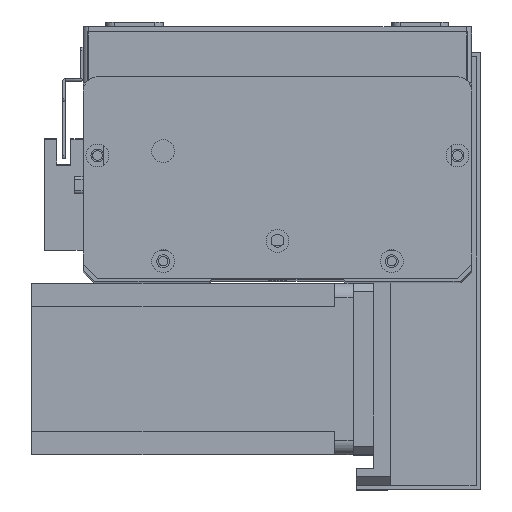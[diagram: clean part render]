
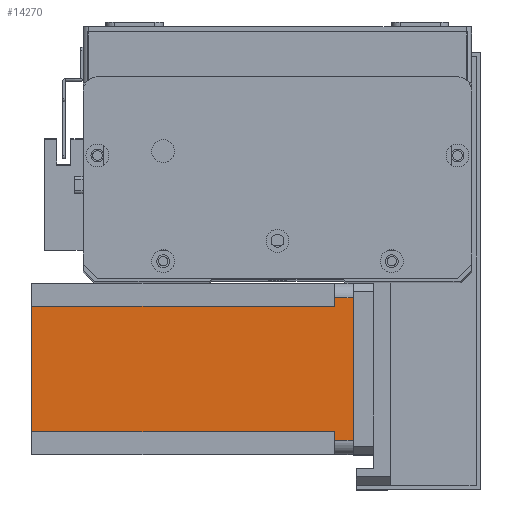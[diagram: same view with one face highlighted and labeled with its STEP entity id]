
A CAD part, top view. The second image highlights one B-rep face of the part: STEP entity #14270.
In plain terms, the highlighted planar face has unit normal (0, 0, 1) as drawn and (0, -1, 0) by its records, which use the part's own axes.
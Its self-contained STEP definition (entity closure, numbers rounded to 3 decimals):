
#109 = ORIENTED_EDGE ( 'NONE', *, *, #27678, .F. ) ;
#430 = CARTESIAN_POINT ( 'NONE',  ( 8., 0., -6.5 ) ) ;
#582 = CARTESIAN_POINT ( 'NONE',  ( 5., 0., 0. ) ) ;
#783 = VECTOR ( 'NONE', #920, 1000. ) ;
#877 = LINE ( 'NONE', #21966, #6172 ) ;
#920 = DIRECTION ( 'NONE',  ( 0., 0., -1. ) ) ;
#1233 = ORIENTED_EDGE ( 'NONE', *, *, #26818, .T. ) ;
#1322 = FACE_OUTER_BOUND ( 'NONE', #5190, .T. ) ;
#1662 = CARTESIAN_POINT ( 'NONE',  ( 52., 0., -112.5 ) ) ;
#1711 = ORIENTED_EDGE ( 'NONE', *, *, #26572, .T. ) ;
#1866 = LINE ( 'NONE', #3988, #24560 ) ;
#2919 = DIRECTION ( 'NONE',  ( 1., 0., 0. ) ) ;
#3390 = VERTEX_POINT ( 'NONE', #1662 ) ;
#3449 = ORIENTED_EDGE ( 'NONE', *, *, #27839, .F. ) ;
#3486 = DIRECTION ( 'NONE',  ( 1., 0., 0. ) ) ;
#3983 = CARTESIAN_POINT ( 'NONE',  ( 55., 0., 0. ) ) ;
#3988 = CARTESIAN_POINT ( 'NONE',  ( 0., 0., -112.5 ) ) ;
#4340 = LINE ( 'NONE', #11675, #21931 ) ;
#5190 = EDGE_LOOP ( 'NONE', ( #1711, #1233, #21809, #9369, #109, #3449, #11434, #16267 ) ) ;
#6172 = VECTOR ( 'NONE', #24083, 1000. ) ;
#7248 = DIRECTION ( 'NONE',  ( -1., 0., 0. ) ) ;
#8338 = CARTESIAN_POINT ( 'NONE',  ( 52., 0., -6.5 ) ) ;
#8752 = VERTEX_POINT ( 'NONE', #582 ) ;
#9369 = ORIENTED_EDGE ( 'NONE', *, *, #27476, .T. ) ;
#9456 = DIRECTION ( 'NONE',  ( 0., 0., -1. ) ) ;
#9572 = DIRECTION ( 'NONE',  ( 0., -1., 0. ) ) ;
#9765 = CARTESIAN_POINT ( 'NONE',  ( 0., 0., -112.5 ) ) ;
#9850 = PLANE ( 'NONE',  #19506 ) ;
#10379 = VERTEX_POINT ( 'NONE', #16748 ) ;
#10889 = VECTOR ( 'NONE', #2919, 1000. ) ;
#11434 = ORIENTED_EDGE ( 'NONE', *, *, #28006, .T. ) ;
#11484 = VERTEX_POINT ( 'NONE', #430 ) ;
#11675 = CARTESIAN_POINT ( 'NONE',  ( 8., 0., -6.5 ) ) ;
#12007 = VECTOR ( 'NONE', #16576, 1000. ) ;
#12429 = LINE ( 'NONE', #21120, #18194 ) ;
#13147 = CARTESIAN_POINT ( 'NONE',  ( 55., 0., -6.5 ) ) ;
#13300 = DIRECTION ( 'NONE',  ( 0., 0., -1. ) ) ;
#14070 = CARTESIAN_POINT ( 'NONE',  ( 0., 0., 0. ) ) ;
#14270 = ADVANCED_FACE ( 'NONE', ( #1322 ), #9850, .T. ) ;
#16258 = VERTEX_POINT ( 'NONE', #13147 ) ;
#16267 = ORIENTED_EDGE ( 'NONE', *, *, #28331, .F. ) ;
#16576 = DIRECTION ( 'NONE',  ( 0., 0., 1. ) ) ;
#16748 = CARTESIAN_POINT ( 'NONE',  ( 8., 0., -112.5 ) ) ;
#17225 = DIRECTION ( 'NONE',  ( 1., 0., 0. ) ) ;
#18194 = VECTOR ( 'NONE', #3486, 1000. ) ;
#19173 = LINE ( 'NONE', #25195, #12007 ) ;
#19506 = AXIS2_PLACEMENT_3D ( 'NONE', #9765, #9572, #9456 ) ;
#19755 = EDGE_CURVE ( 'NONE', #8752, #21128, #27556, .T. ) ;
#19768 = CARTESIAN_POINT ( 'NONE',  ( 5., 0., -112.5 ) ) ;
#19987 = VERTEX_POINT ( 'NONE', #8338 ) ;
#20191 = VECTOR ( 'NONE', #13300, 1000. ) ;
#21120 = CARTESIAN_POINT ( 'NONE',  ( 52., 0., -6.5 ) ) ;
#21128 = VERTEX_POINT ( 'NONE', #3983 ) ;
#21809 = ORIENTED_EDGE ( 'NONE', *, *, #19755, .F. ) ;
#21931 = VECTOR ( 'NONE', #7248, 1000. ) ;
#21966 = CARTESIAN_POINT ( 'NONE',  ( 55., 0., -112.5 ) ) ;
#22684 = VERTEX_POINT ( 'NONE', #25274 ) ;
#22911 = CARTESIAN_POINT ( 'NONE',  ( 52., 0., -112.5 ) ) ;
#23554 = LINE ( 'NONE', #22911, #783 ) ;
#24083 = DIRECTION ( 'NONE',  ( 0., 0., 1. ) ) ;
#24560 = VECTOR ( 'NONE', #17225, 1000. ) ;
#25195 = CARTESIAN_POINT ( 'NONE',  ( 8., 0., -112.5 ) ) ;
#25274 = CARTESIAN_POINT ( 'NONE',  ( 5., 0., -6.5 ) ) ;
#26572 = EDGE_CURVE ( 'NONE', #19987, #16258, #12429, .T. ) ;
#26621 = LINE ( 'NONE', #19768, #20191 ) ;
#26818 = EDGE_CURVE ( 'NONE', #16258, #21128, #877, .T. ) ;
#27476 = EDGE_CURVE ( 'NONE', #8752, #22684, #26621, .T. ) ;
#27556 = LINE ( 'NONE', #14070, #10889 ) ;
#27678 = EDGE_CURVE ( 'NONE', #11484, #22684, #4340, .T. ) ;
#27839 = EDGE_CURVE ( 'NONE', #10379, #11484, #19173, .T. ) ;
#28006 = EDGE_CURVE ( 'NONE', #10379, #3390, #1866, .T. ) ;
#28331 = EDGE_CURVE ( 'NONE', #19987, #3390, #23554, .T. ) ;
